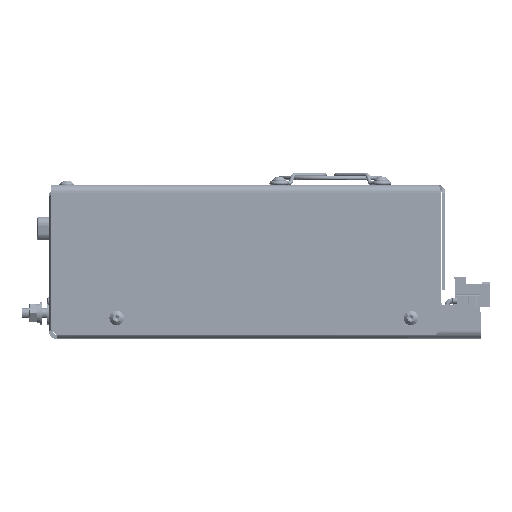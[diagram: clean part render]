
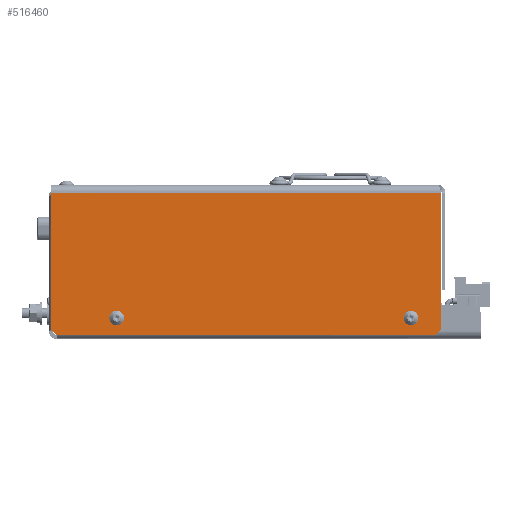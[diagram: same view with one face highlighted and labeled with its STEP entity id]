
A CAD part, top view. The second image highlights one B-rep face of the part: STEP entity #516460.
In plain terms, the highlighted planar face has unit normal (0, 0, 1) as drawn and (-1, 0, 0) by its records, which use the part's own axes.
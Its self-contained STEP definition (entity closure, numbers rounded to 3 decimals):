
#1720 = AXIS2_PLACEMENT_3D ( 'NONE', #454232, #339422, #566613 ) ;
#2186 = DIRECTION ( 'NONE',  ( 1., 0., 0. ) ) ;
#6125 = CARTESIAN_POINT ( 'NONE',  ( -53.25, -3., 152.5 ) ) ;
#18611 = VERTEX_POINT ( 'NONE', #367822 ) ;
#19479 = DIRECTION ( 'NONE',  ( 0., 0.707, 0.707 ) ) ;
#20355 = VERTEX_POINT ( 'NONE', #705265 ) ;
#23463 = DIRECTION ( 'NONE',  ( 1., 0., 0. ) ) ;
#24681 = EDGE_CURVE ( 'NONE', #471322, #402641, #167544, .T. ) ;
#29333 = ORIENTED_EDGE ( 'NONE', *, *, #68464, .T. ) ;
#43250 = EDGE_CURVE ( 'NONE', #18611, #490418, #674775, .T. ) ;
#46121 = CARTESIAN_POINT ( 'NONE',  ( -53.25, -51.5, 140.5 ) ) ;
#49287 = DIRECTION ( 'NONE',  ( 0., 0., -1. ) ) ;
#52949 = CARTESIAN_POINT ( 'NONE',  ( -53.25, -51.5, 138.75 ) ) ;
#53338 = EDGE_CURVE ( 'NONE', #242679, #79655, #568530, .T. ) ;
#54464 = CARTESIAN_POINT ( 'NONE',  ( -53.25, -51.5, 138.75 ) ) ;
#62303 = DIRECTION ( 'NONE',  ( 0., 0., -1. ) ) ;
#68464 = EDGE_CURVE ( 'NONE', #79655, #550120, #530767, .T. ) ;
#71973 = CARTESIAN_POINT ( 'NONE',  ( -53.25, -58.5, 0. ) ) ;
#73480 = AXIS2_PLACEMENT_3D ( 'NONE', #358242, #23463, #414419 ) ;
#77264 = AXIS2_PLACEMENT_3D ( 'NONE', #645885, #311016, #702150 ) ;
#79655 = VERTEX_POINT ( 'NONE', #331807 ) ;
#88103 = EDGE_CURVE ( 'NONE', #399580, #402641, #262861, .T. ) ;
#94893 = CARTESIAN_POINT ( 'NONE',  ( -53.25, -58.5, 2. ) ) ;
#97394 = EDGE_CURVE ( 'NONE', #18611, #493665, #216859, .T. ) ;
#97472 = VECTOR ( 'NONE', #101179, 1000. ) ;
#97759 = VERTEX_POINT ( 'NONE', #615402 ) ;
#101179 = DIRECTION ( 'NONE',  ( 0., -0.707, 0.707 ) ) ;
#102334 = DIRECTION ( 'NONE',  ( 0., 1., 0. ) ) ;
#105592 = DIRECTION ( 'NONE',  ( 0., -1., 0. ) ) ;
#109040 = DIRECTION ( 'NONE',  ( 0., 1., 0. ) ) ;
#114843 = DIRECTION ( 'NONE',  ( 0., 1., 0. ) ) ;
#137172 = EDGE_CURVE ( 'NONE', #20355, #222568, #634441, .T. ) ;
#141322 = CARTESIAN_POINT ( 'NONE',  ( -53.25, -51.5, 23.75 ) ) ;
#143094 = CARTESIAN_POINT ( 'NONE',  ( -53.25, -3., 152.4 ) ) ;
#150690 = DIRECTION ( 'NONE',  ( 1., 0., 0. ) ) ;
#153644 = CARTESIAN_POINT ( 'NONE',  ( -53.25, -51.5, 142.25 ) ) ;
#167123 = EDGE_CURVE ( 'NONE', #399580, #493665, #171295, .T. ) ;
#167544 = LINE ( 'NONE', #574220, #447463 ) ;
#169056 = ORIENTED_EDGE ( 'NONE', *, *, #137172, .T. ) ;
#171295 = LINE ( 'NONE', #6125, #451234 ) ;
#174868 = ORIENTED_EDGE ( 'NONE', *, *, #498129, .T. ) ;
#176314 = CARTESIAN_POINT ( 'NONE',  ( -53.25, -51.5, 140.5 ) ) ;
#179313 = DIRECTION ( 'NONE',  ( 0., -1., 0. ) ) ;
#181917 = VECTOR ( 'NONE', #352998, 1000. ) ;
#188236 = VERTEX_POINT ( 'NONE', #141322 ) ;
#193924 = CARTESIAN_POINT ( 'NONE',  ( -53.25, -49.75, 25.5 ) ) ;
#197941 = EDGE_LOOP ( 'NONE', ( #293158, #216127, #286623, #633375, #284467, #247687 ) ) ;
#204480 = CARTESIAN_POINT ( 'NONE',  ( -53.25, -52.5, 23.75 ) ) ;
#208083 = EDGE_LOOP ( 'NONE', ( #521164, #537759, #336030, #29333, #698482 ) ) ;
#216127 = ORIENTED_EDGE ( 'NONE', *, *, #43250, .T. ) ;
#216859 = LINE ( 'NONE', #71973, #181917 ) ;
#222568 = VERTEX_POINT ( 'NONE', #313516 ) ;
#232427 = DIRECTION ( 'NONE',  ( 0., 1., 0. ) ) ;
#233643 = VERTEX_POINT ( 'NONE', #54464 ) ;
#242679 = VERTEX_POINT ( 'NONE', #520897 ) ;
#245484 = AXIS2_PLACEMENT_3D ( 'NONE', #336913, #2186, #393190 ) ;
#247687 = ORIENTED_EDGE ( 'NONE', *, *, #167123, .T. ) ;
#258818 = VECTOR ( 'NONE', #49287, 1000. ) ;
#261065 = CIRCLE ( 'NONE', #245484, 1.75 ) ;
#262861 = LINE ( 'NONE', #289435, #394216 ) ;
#262959 = EDGE_CURVE ( 'NONE', #550120, #188236, #335245, .T. ) ;
#269688 = CARTESIAN_POINT ( 'NONE',  ( -53.25, -133.75, 77.25 ) ) ;
#273797 = EDGE_CURVE ( 'NONE', #471322, #490418, #705090, .T. ) ;
#284467 = ORIENTED_EDGE ( 'NONE', *, *, #88103, .F. ) ;
#286623 = ORIENTED_EDGE ( 'NONE', *, *, #273797, .F. ) ;
#287734 = FACE_OUTER_BOUND ( 'NONE', #197941, .T. ) ;
#288709 = CIRCLE ( 'NONE', #329337, 1.75 ) ;
#289435 = CARTESIAN_POINT ( 'NONE',  ( -53.25, -58.5, 152.4 ) ) ;
#293158 = ORIENTED_EDGE ( 'NONE', *, *, #97394, .F. ) ;
#304015 = EDGE_CURVE ( 'NONE', #233643, #592705, #529422, .T. ) ;
#311016 = DIRECTION ( 'NONE',  ( 1., 0., 0. ) ) ;
#313516 = CARTESIAN_POINT ( 'NONE',  ( -53.25, -52.5, 138.75 ) ) ;
#317709 = VECTOR ( 'NONE', #114843, 1000. ) ;
#325982 = EDGE_LOOP ( 'NONE', ( #676208, #590219, #174868, #169056, #436821 ) ) ;
#329337 = AXIS2_PLACEMENT_3D ( 'NONE', #176314, #567399, #232427 ) ;
#331807 = CARTESIAN_POINT ( 'NONE',  ( -53.25, -52.5, 27.25 ) ) ;
#335245 = LINE ( 'NONE', #672248, #317709 ) ;
#336030 = ORIENTED_EDGE ( 'NONE', *, *, #53338, .T. ) ;
#336913 = CARTESIAN_POINT ( 'NONE',  ( -53.25, -51.5, 25.5 ) ) ;
#339422 = DIRECTION ( 'NONE',  ( -1., 0., 0. ) ) ;
#352998 = DIRECTION ( 'NONE',  ( 0., 1., 0. ) ) ;
#358242 = CARTESIAN_POINT ( 'NONE',  ( -53.25, -52.5, 140.5 ) ) ;
#367822 = CARTESIAN_POINT ( 'NONE',  ( -53.25, -56.5, 0. ) ) ;
#376147 = DIRECTION ( 'NONE',  ( 0., -1., 0. ) ) ;
#384008 = CARTESIAN_POINT ( 'NONE',  ( -53.25, -58.5, 152.5 ) ) ;
#393190 = DIRECTION ( 'NONE',  ( 0., 1., 0. ) ) ;
#394216 = VECTOR ( 'NONE', #179313, 1000. ) ;
#396751 = CARTESIAN_POINT ( 'NONE',  ( -53.25, -58.5, 150.4 ) ) ;
#399580 = VERTEX_POINT ( 'NONE', #143094 ) ;
#402641 = VERTEX_POINT ( 'NONE', #519807 ) ;
#414419 = DIRECTION ( 'NONE',  ( 0., 1., 0. ) ) ;
#427915 = AXIS2_PLACEMENT_3D ( 'NONE', #46121, #437127, #102334 ) ;
#436389 = FACE_BOUND ( 'NONE', #208083, .T. ) ;
#436821 = ORIENTED_EDGE ( 'NONE', *, *, #483292, .T. ) ;
#437127 = DIRECTION ( 'NONE',  ( 1., 0., 0. ) ) ;
#447463 = VECTOR ( 'NONE', #19479, 1000. ) ;
#451234 = VECTOR ( 'NONE', #62303, 1000. ) ;
#454232 = CARTESIAN_POINT ( 'NONE',  ( -53.25, -58.5, 152.5 ) ) ;
#467967 = LINE ( 'NONE', #52949, #598995 ) ;
#469384 = CIRCLE ( 'NONE', #77264, 1.75 ) ;
#471322 = VERTEX_POINT ( 'NONE', #396751 ) ;
#483292 = EDGE_CURVE ( 'NONE', #222568, #233643, #467967, .T. ) ;
#485661 = CARTESIAN_POINT ( 'NONE',  ( -53.25, -52.5, 25.5 ) ) ;
#490418 = VERTEX_POINT ( 'NONE', #94893 ) ;
#493665 = VERTEX_POINT ( 'NONE', #564190 ) ;
#498129 = EDGE_CURVE ( 'NONE', #97759, #20355, #692469, .T. ) ;
#510482 = PLANE ( 'NONE',  #1720 ) ;
#516460 = ADVANCED_FACE ( 'NONE', ( #287734, #436389, #716300 ), #510482, .T. ) ;
#517908 = EDGE_CURVE ( 'NONE', #582941, #242679, #261065, .T. ) ;
#519807 = CARTESIAN_POINT ( 'NONE',  ( -53.25, -56.5, 152.4 ) ) ;
#520897 = CARTESIAN_POINT ( 'NONE',  ( -53.25, -51.5, 27.25 ) ) ;
#521164 = ORIENTED_EDGE ( 'NONE', *, *, #631841, .T. ) ;
#529422 = CIRCLE ( 'NONE', #427915, 1.75 ) ;
#530767 = CIRCLE ( 'NONE', #687654, 1.75 ) ;
#537759 = ORIENTED_EDGE ( 'NONE', *, *, #517908, .T. ) ;
#541731 = DIRECTION ( 'NONE',  ( 0., 1., 0. ) ) ;
#543586 = VECTOR ( 'NONE', #376147, 1000. ) ;
#550120 = VERTEX_POINT ( 'NONE', #204480 ) ;
#550982 = VECTOR ( 'NONE', #105592, 1000. ) ;
#564190 = CARTESIAN_POINT ( 'NONE',  ( -53.25, -3., 0. ) ) ;
#566613 = DIRECTION ( 'NONE',  ( 0., 0., 1. ) ) ;
#567399 = DIRECTION ( 'NONE',  ( 1., 0., 0. ) ) ;
#568530 = LINE ( 'NONE', #706795, #550982 ) ;
#574220 = CARTESIAN_POINT ( 'NONE',  ( -53.25, -57.45, 151.45 ) ) ;
#582941 = VERTEX_POINT ( 'NONE', #193924 ) ;
#590219 = ORIENTED_EDGE ( 'NONE', *, *, #701171, .T. ) ;
#592705 = VERTEX_POINT ( 'NONE', #678104 ) ;
#598995 = VECTOR ( 'NONE', #109040, 1000. ) ;
#615402 = CARTESIAN_POINT ( 'NONE',  ( -53.25, -51.5, 142.25 ) ) ;
#631841 = EDGE_CURVE ( 'NONE', #188236, #582941, #469384, .T. ) ;
#633375 = ORIENTED_EDGE ( 'NONE', *, *, #24681, .T. ) ;
#634441 = CIRCLE ( 'NONE', #73480, 1.75 ) ;
#645885 = CARTESIAN_POINT ( 'NONE',  ( -53.25, -51.5, 25.5 ) ) ;
#672248 = CARTESIAN_POINT ( 'NONE',  ( -53.25, -51.5, 23.75 ) ) ;
#674775 = LINE ( 'NONE', #269688, #97472 ) ;
#676208 = ORIENTED_EDGE ( 'NONE', *, *, #304015, .T. ) ;
#678104 = CARTESIAN_POINT ( 'NONE',  ( -53.25, -49.75, 140.5 ) ) ;
#687654 = AXIS2_PLACEMENT_3D ( 'NONE', #485661, #150690, #541731 ) ;
#692469 = LINE ( 'NONE', #153644, #543586 ) ;
#698482 = ORIENTED_EDGE ( 'NONE', *, *, #262959, .T. ) ;
#701171 = EDGE_CURVE ( 'NONE', #592705, #97759, #288709, .T. ) ;
#702150 = DIRECTION ( 'NONE',  ( 0., 1., 0. ) ) ;
#705090 = LINE ( 'NONE', #384008, #258818 ) ;
#705265 = CARTESIAN_POINT ( 'NONE',  ( -53.25, -52.5, 142.25 ) ) ;
#706795 = CARTESIAN_POINT ( 'NONE',  ( -53.25, -51.5, 27.25 ) ) ;
#716300 = FACE_BOUND ( 'NONE', #325982, .T. ) ;
